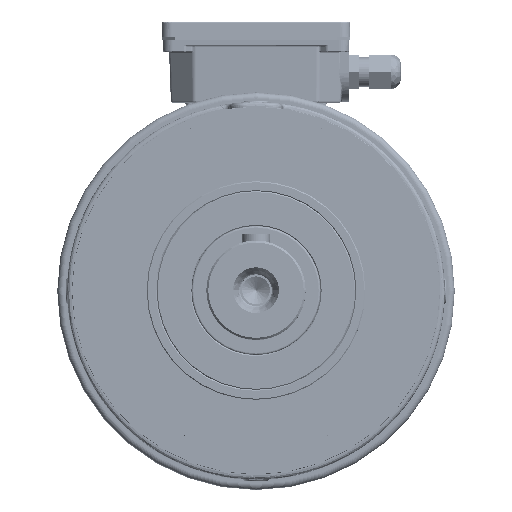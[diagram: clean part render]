
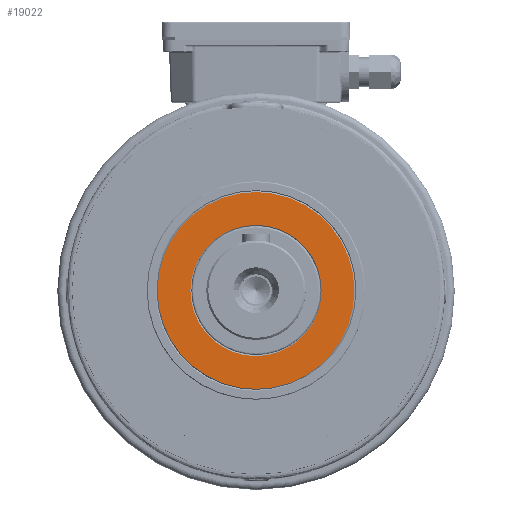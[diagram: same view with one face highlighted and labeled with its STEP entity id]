
A CAD part, top view. The second image highlights one B-rep face of the part: STEP entity #19022.
In plain terms, the highlighted planar face has unit normal (0, 0, 1) as drawn and (0, 0, -1) by its records, which use the part's own axes.
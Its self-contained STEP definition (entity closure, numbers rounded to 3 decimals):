
#19022 = ADVANCED_FACE ( 'NONE', ( #170503, #170436 ), #193818, .F. ) ;
#35406 = EDGE_CURVE ( 'NONE', #178077, #178055, #59336, .T. ) ;
#35604 = EDGE_CURVE ( 'NONE', #178079, #178194, #59461, .T. ) ;
#35649 = EDGE_CURVE ( 'NONE', #178194, #178079, #58497, .T. ) ;
#35681 = EDGE_CURVE ( 'NONE', #178055, #178077, #105006, .T. ) ;
#51177 = AXIS2_PLACEMENT_3D ( 'NONE', #193814, #193816, #193824 ) ;
#58497 = CIRCLE ( 'NONE', #109001, 33. ) ;
#59336 = CIRCLE ( 'NONE', #108786, 49.5 ) ;
#59461 = CIRCLE ( 'NONE', #108935, 33. ) ;
#67103 = CARTESIAN_POINT ( 'NONE',  ( -33., 0., 0. ) ) ;
#69385 = CARTESIAN_POINT ( 'NONE',  ( -49.5, 0., 0. ) ) ;
#69437 = CARTESIAN_POINT ( 'NONE',  ( 33., 0., 0. ) ) ;
#69442 = CARTESIAN_POINT ( 'NONE',  ( 49.5, 0., 0. ) ) ;
#85744 = EDGE_LOOP ( 'NONE', ( #153238, #153325 ) ) ;
#89072 = EDGE_LOOP ( 'NONE', ( #153295, #153318 ) ) ;
#105006 = CIRCLE ( 'NONE', #108938, 49.5 ) ;
#108786 = AXIS2_PLACEMENT_3D ( 'NONE', #110825, #110805, #110758 ) ;
#108935 = AXIS2_PLACEMENT_3D ( 'NONE', #111263, #111239, #111210 ) ;
#108938 = AXIS2_PLACEMENT_3D ( 'NONE', #111362, #111351, #111326 ) ;
#109001 = AXIS2_PLACEMENT_3D ( 'NONE', #111315, #111338, #111356 ) ;
#110758 = DIRECTION ( 'NONE',  ( 1., 0., 0. ) ) ;
#110805 = DIRECTION ( 'NONE',  ( 0., 0., 1. ) ) ;
#110825 = CARTESIAN_POINT ( 'NONE',  ( 0., 0., 0. ) ) ;
#111210 = DIRECTION ( 'NONE',  ( -1., 0., 0. ) ) ;
#111239 = DIRECTION ( 'NONE',  ( 0., 0., -1. ) ) ;
#111263 = CARTESIAN_POINT ( 'NONE',  ( 0., 0., 0. ) ) ;
#111315 = CARTESIAN_POINT ( 'NONE',  ( 0., 0., 0. ) ) ;
#111326 = DIRECTION ( 'NONE',  ( 1., 0., 0. ) ) ;
#111338 = DIRECTION ( 'NONE',  ( 0., 0., -1. ) ) ;
#111351 = DIRECTION ( 'NONE',  ( 0., 0., 1. ) ) ;
#111356 = DIRECTION ( 'NONE',  ( -1., 0., 0. ) ) ;
#111362 = CARTESIAN_POINT ( 'NONE',  ( 0., 0., 0. ) ) ;
#153238 = ORIENTED_EDGE ( 'NONE', *, *, #35649, .F. ) ;
#153295 = ORIENTED_EDGE ( 'NONE', *, *, #35406, .F. ) ;
#153318 = ORIENTED_EDGE ( 'NONE', *, *, #35681, .F. ) ;
#153325 = ORIENTED_EDGE ( 'NONE', *, *, #35604, .F. ) ;
#170436 = FACE_OUTER_BOUND ( 'NONE', #89072, .T. ) ;
#170503 = FACE_BOUND ( 'NONE', #85744, .T. ) ;
#178055 = VERTEX_POINT ( 'NONE', #69385 ) ;
#178077 = VERTEX_POINT ( 'NONE', #69442 ) ;
#178079 = VERTEX_POINT ( 'NONE', #69437 ) ;
#178194 = VERTEX_POINT ( 'NONE', #67103 ) ;
#193814 = CARTESIAN_POINT ( 'NONE',  ( -33., 0., 0. ) ) ;
#193816 = DIRECTION ( 'NONE',  ( 0., 0., 1. ) ) ;
#193818 = PLANE ( 'NONE',  #51177 ) ;
#193824 = DIRECTION ( 'NONE',  ( 0., -1., 0. ) ) ;
